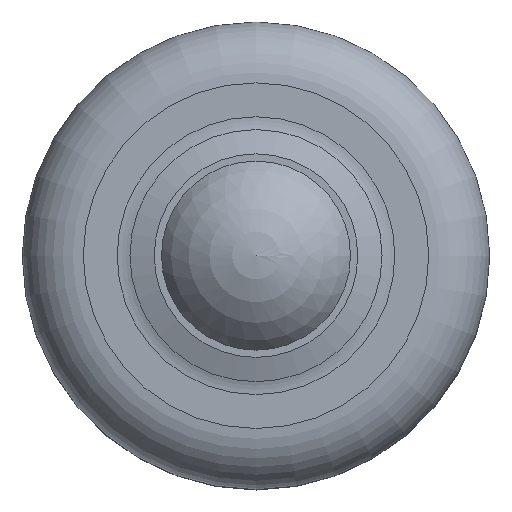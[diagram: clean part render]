
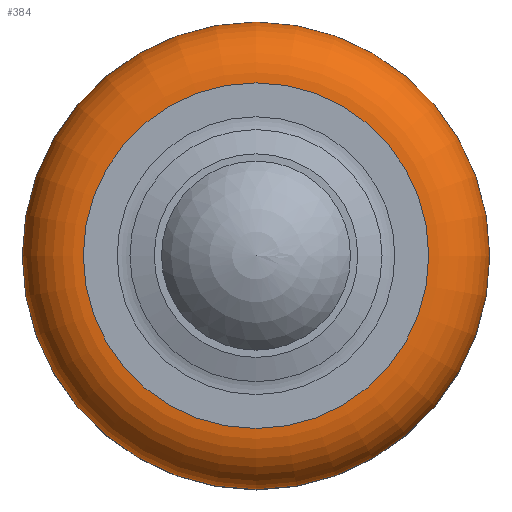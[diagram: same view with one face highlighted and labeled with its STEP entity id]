
A CAD part, top view. The second image highlights one B-rep face of the part: STEP entity #384.
In plain terms, the highlighted toroidal (fillet/blend) face has major radius 8.5 mm and minor radius 3 mm.
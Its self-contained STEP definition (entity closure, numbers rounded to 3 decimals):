
#56=TOROIDAL_SURFACE('',#424,8.5,3.);
#77=FACE_BOUND('',#133,.T.);
#96=FACE_OUTER_BOUND('',#132,.T.);
#132=EDGE_LOOP('',(#270));
#133=EDGE_LOOP('',(#271));
#173=CIRCLE('',#423,11.5);
#174=CIRCLE('',#425,8.5);
#193=VERTEX_POINT('',#604);
#194=VERTEX_POINT('',#607);
#225=EDGE_CURVE('',#193,#193,#173,.T.);
#226=EDGE_CURVE('',#194,#194,#174,.T.);
#270=ORIENTED_EDGE('',*,*,#225,.F.);
#271=ORIENTED_EDGE('',*,*,#226,.T.);
#384=ADVANCED_FACE('',(#96,#77),#56,.T.);
#423=AXIS2_PLACEMENT_3D('',#605,#492,#493);
#424=AXIS2_PLACEMENT_3D('',#606,#494,#495);
#425=AXIS2_PLACEMENT_3D('',#608,#496,#497);
#492=DIRECTION('center_axis',(0.,0.,-1.));
#493=DIRECTION('ref_axis',(0.,1.,0.));
#494=DIRECTION('center_axis',(0.,0.,-1.));
#495=DIRECTION('ref_axis',(-1.,0.,0.));
#496=DIRECTION('center_axis',(0.,0.,-1.));
#497=DIRECTION('ref_axis',(0.,1.,0.));
#604=CARTESIAN_POINT('',(0.,11.5,14.4));
#605=CARTESIAN_POINT('Origin',(0.,0.,14.4));
#606=CARTESIAN_POINT('Origin',(0.,0.,14.4));
#607=CARTESIAN_POINT('',(0.,8.5,17.4));
#608=CARTESIAN_POINT('Origin',(0.,0.,17.4));
